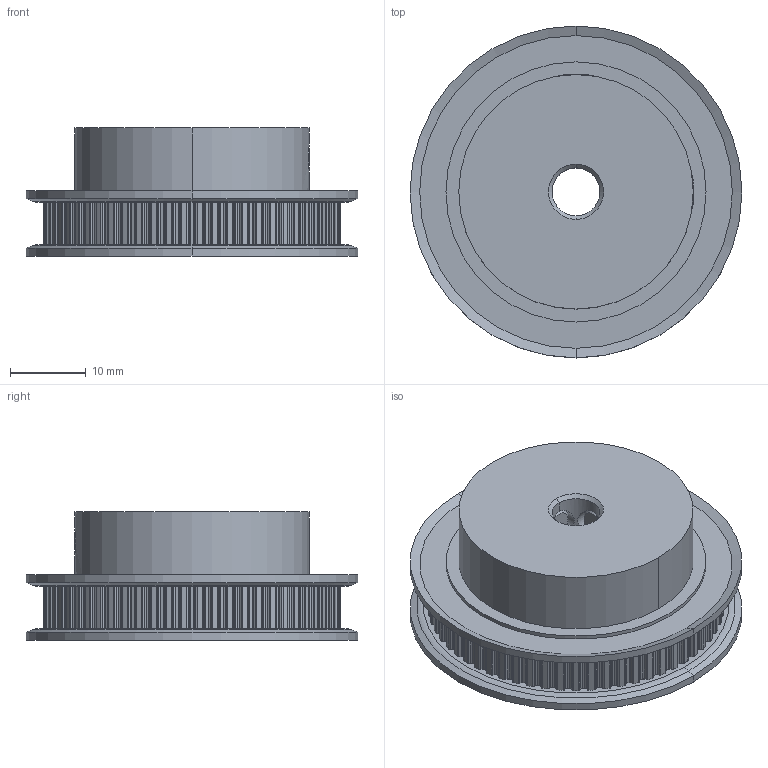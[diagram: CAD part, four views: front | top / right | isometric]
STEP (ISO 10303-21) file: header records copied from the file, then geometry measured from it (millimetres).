
FILE_DESCRIPTION((''),'2;1');
FILE_NAME('46676','2011-01-23T',('carefree'),(''),'PRO/ENGINEER BY PARAMETRIC TECHNOLOGY CORPORATION, 2005030','PRO/ENGINEER BY PARAMETRIC TECHNOLOGY CORPORATION, 2005030','');
FILE_SCHEMA(('CONFIG_CONTROL_DESIGN'));
Length unit declared in the file: inch
Products named in the file (1): 46676
Bounding box: 43.94 x 43.94 x 16.97 mm (x, y, z)
Volume: 16408.1 mm3; surface area: 6092.3 mm2
Topology: 1 solids, 1 shells, 549 faces, 1598 edges, 1060 vertices
Faces by surface type: cylinder 320, plane 205, cone 20, torus 4
Entity records: 18798 total; most frequent: CARTESIAN_POINT 3583, DIRECTION 3358, ORIENTED_EDGE 3196, EDGE_CURVE 1598, AXIS2_PLACEMENT_3D 1219, VERTEX_POINT 1060, VECTOR 920, LINE 920
